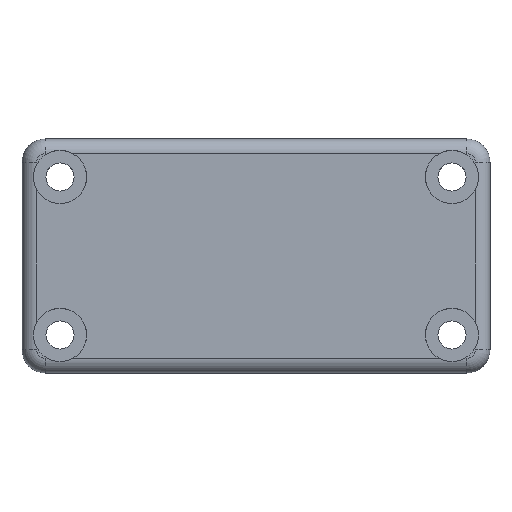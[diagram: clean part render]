
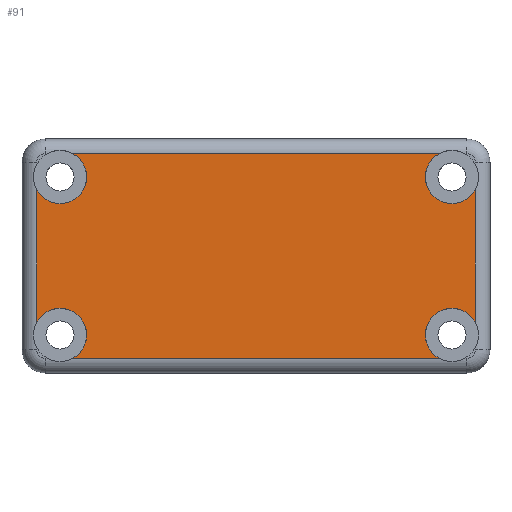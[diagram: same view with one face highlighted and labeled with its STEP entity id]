
A CAD part, top view. The second image highlights one B-rep face of the part: STEP entity #91.
In plain terms, the highlighted planar face has unit normal (0, 0, 1).
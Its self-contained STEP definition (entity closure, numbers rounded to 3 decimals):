
#91=ADVANCED_FACE('',(#206),#207,.T.);
#206=FACE_OUTER_BOUND('',#348,.T.);
#207=PLANE('',#349);
#348=EDGE_LOOP('',(#560,#561,#562,#563,#564,#565,#566,#567,#568,#569,#570,#571));
#349=AXIS2_PLACEMENT_3D('',#572,#573,#574);
#560=ORIENTED_EDGE('',*,*,#885,.T.);
#561=ORIENTED_EDGE('',*,*,#891,.T.);
#562=ORIENTED_EDGE('',*,*,#906,.F.);
#563=ORIENTED_EDGE('',*,*,#907,.T.);
#564=ORIENTED_EDGE('',*,*,#862,.T.);
#565=ORIENTED_EDGE('',*,*,#908,.F.);
#566=ORIENTED_EDGE('',*,*,#909,.T.);
#567=ORIENTED_EDGE('',*,*,#851,.T.);
#568=ORIENTED_EDGE('',*,*,#910,.F.);
#569=ORIENTED_EDGE('',*,*,#872,.T.);
#570=ORIENTED_EDGE('',*,*,#911,.T.);
#571=ORIENTED_EDGE('',*,*,#898,.F.);
#572=CARTESIAN_POINT('',(36.75,-16.0,4.0));
#573=DIRECTION('',(0.,0.0,1.0));
#574=DIRECTION('',(1.0,0.0,0.));
#851=EDGE_CURVE('',#1005,#1015,#1017,.T.);
#862=EDGE_CURVE('',#1029,#1035,#1037,.T.);
#872=EDGE_CURVE('',#1055,#1053,#1056,.T.);
#885=EDGE_CURVE('',#1079,#1077,#1080,.T.);
#891=EDGE_CURVE('',#1077,#1087,#1089,.T.);
#898=EDGE_CURVE('',#1079,#1096,#1097,.T.);
#906=EDGE_CURVE('',#1109,#1087,#1110,.T.);
#907=EDGE_CURVE('',#1109,#1029,#1111,.T.);
#908=EDGE_CURVE('',#1112,#1035,#1113,.T.);
#909=EDGE_CURVE('',#1112,#1005,#1114,.T.);
#910=EDGE_CURVE('',#1055,#1015,#1115,.T.);
#911=EDGE_CURVE('',#1053,#1096,#1116,.T.);
#1005=VERTEX_POINT('',#1234);
#1015=VERTEX_POINT('',#1259);
#1017=CIRCLE('',#1274,4.55);
#1029=VERTEX_POINT('',#1288);
#1035=VERTEX_POINT('',#1296);
#1037=CIRCLE('',#1311,4.55);
#1053=VERTEX_POINT('',#1330);
#1055=VERTEX_POINT('',#1333);
#1056=CIRCLE('',#1334,4.55);
#1077=VERTEX_POINT('',#1384);
#1079=VERTEX_POINT('',#1387);
#1080=CIRCLE('',#1388,4.55);
#1087=VERTEX_POINT('',#1421);
#1089=CIRCLE('',#1436,4.55);
#1096=VERTEX_POINT('',#1443);
#1097=LINE('',#1444,#1445);
#1109=VERTEX_POINT('',#1473);
#1110=LINE('',#1474,#1475);
#1111=CIRCLE('',#1476,4.55);
#1112=VERTEX_POINT('',#1477);
#1113=LINE('',#1478,#1479);
#1114=CIRCLE('',#1480,4.55);
#1115=LINE('',#1481,#1482);
#1116=CIRCLE('',#1483,4.55);
#1234=CARTESIAN_POINT('',(-28.95,-13.5,4.0));
#1259=CARTESIAN_POINT('',(-31.331,-17.5,4.0));
#1274=AXIS2_PLACEMENT_3D('',#1664,#1665,#1666);
#1288=CARTESIAN_POINT('',(-28.95,13.5,4.0));
#1296=CARTESIAN_POINT('',(-37.5,11.331,4.0));
#1311=AXIS2_PLACEMENT_3D('',#1680,#1681,#1682);
#1330=CARTESIAN_POINT('',(28.95,-13.5,4.0));
#1333=CARTESIAN_POINT('',(31.331,-17.5,4.0));
#1334=AXIS2_PLACEMENT_3D('',#1696,#1697,#1698);
#1384=CARTESIAN_POINT('',(28.95,13.5,4.0));
#1387=CARTESIAN_POINT('',(37.5,11.331,4.0));
#1388=AXIS2_PLACEMENT_3D('',#1715,#1716,#1717);
#1421=CARTESIAN_POINT('',(31.331,17.5,4.0));
#1436=AXIS2_PLACEMENT_3D('',#1721,#1722,#1723);
#1443=CARTESIAN_POINT('',(37.5,-11.331,4.0));
#1444=CARTESIAN_POINT('',(37.5,16.0,4.0));
#1445=VECTOR('',#1733,1.0);
#1473=CARTESIAN_POINT('',(-31.331,17.5,4.0));
#1474=CARTESIAN_POINT('',(-36.0,17.5,4.0));
#1475=VECTOR('',#1743,1.0);
#1476=AXIS2_PLACEMENT_3D('',#1744,#1745,#1746);
#1477=CARTESIAN_POINT('',(-37.5,-11.331,4.0));
#1478=CARTESIAN_POINT('',(-37.5,-16.0,4.0));
#1479=VECTOR('',#1747,1.0);
#1480=AXIS2_PLACEMENT_3D('',#1748,#1749,#1750);
#1481=CARTESIAN_POINT('',(36.0,-17.5,4.0));
#1482=VECTOR('',#1751,1.0);
#1483=AXIS2_PLACEMENT_3D('',#1752,#1753,#1754);
#1664=CARTESIAN_POINT('',(-33.5,-13.5,4.0));
#1665=DIRECTION('',(0.,-0.0,-1.0));
#1666=DIRECTION('',(1.0,0.0,0.));
#1680=CARTESIAN_POINT('',(-33.5,13.5,4.0));
#1681=DIRECTION('',(0.,-0.0,-1.0));
#1682=DIRECTION('',(1.0,0.0,0.));
#1696=CARTESIAN_POINT('',(33.5,-13.5,4.0));
#1697=DIRECTION('',(0.,-0.0,-1.0));
#1698=DIRECTION('',(1.0,0.0,0.));
#1715=CARTESIAN_POINT('',(33.5,13.5,4.0));
#1716=DIRECTION('',(0.,-0.0,-1.0));
#1717=DIRECTION('',(1.0,0.0,0.));
#1721=CARTESIAN_POINT('',(33.5,13.5,4.0));
#1722=DIRECTION('',(0.,-0.0,-1.0));
#1723=DIRECTION('',(1.0,0.0,0.));
#1733=DIRECTION('',(0.0,-1.0,0.0));
#1743=DIRECTION('',(1.0,0.0,0.0));
#1744=CARTESIAN_POINT('',(-33.5,13.5,4.0));
#1745=DIRECTION('',(0.,-0.0,-1.0));
#1746=DIRECTION('',(1.0,0.0,0.));
#1747=DIRECTION('',(0.0,1.0,0.0));
#1748=CARTESIAN_POINT('',(-33.5,-13.5,4.0));
#1749=DIRECTION('',(0.,-0.0,-1.0));
#1750=DIRECTION('',(1.0,0.0,0.));
#1751=DIRECTION('',(-1.0,0.0,0.0));
#1752=CARTESIAN_POINT('',(33.5,-13.5,4.0));
#1753=DIRECTION('',(0.,-0.0,-1.0));
#1754=DIRECTION('',(1.0,0.0,0.));
